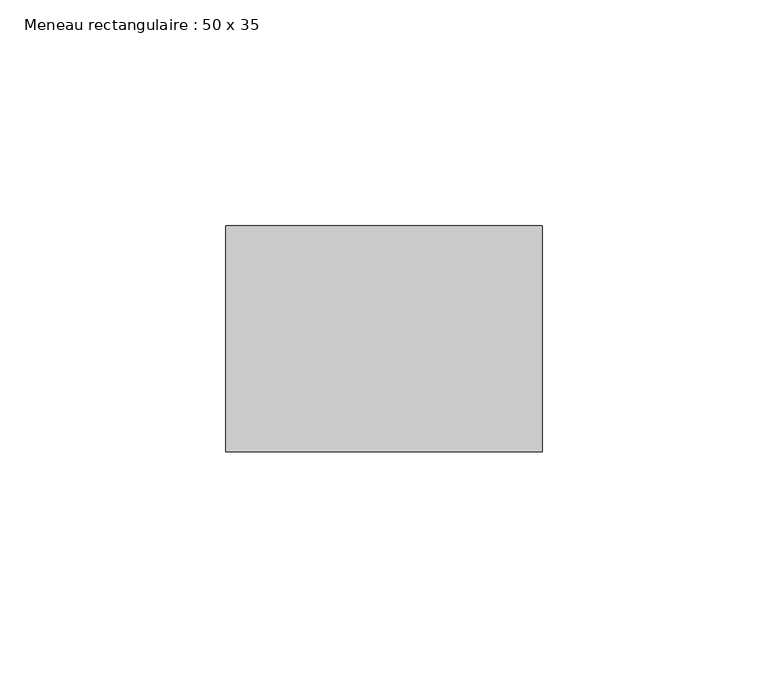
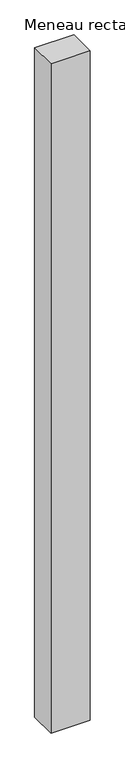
"""IFC4 building model written with IfcOpenShell, lengths in millimetres: member geometry, Meneau rectangulaire : 50 x 35."""

from ifc_helpers import new_model, si_unit, frame, origin, place, context, project, spatial, polyline, outline, extrude, source, transform, mapped, element, save


def meneau_rectangulaire_50_x_35_a22ea3cb(model_context):
    return source(origin(), model_context, "Body", "SweptSolid", [
        extrude(outline(polyline([(0.0, 0.0), (0.0, -50.0), (-70.0, -50.0), (-70.0, 0.0), (0.0, 0.0)])), frame((0.0, 0.0, -1265.0), z_axis=(0.0, 0.0, 1.0), x_axis=(1.0, 0.0, 0.0)), (0.0, 0.0, 1.0), 1265.0),
    ])


if __name__ == "__main__":
    model = new_model("IFC4")
    model_context = context("Model", 3, world=origin())
    ifc_project = project(units=[si_unit("LENGTHUNIT", "METRE", prefix="MILLI")], contexts=[model_context])
    site = spatial("IfcSite", under=ifc_project)
    building = spatial("IfcBuilding", under=site)
    placement = place(None, origin())
    meneau_rectangulaire_50_x_35_shape = meneau_rectangulaire_50_x_35_a22ea3cb(model_context)
    element("IfcMember", 1, ObjectType="Meneau rectangulaire : 50 x 35", at=placement, inside=building, context=model_context, shape_type="MappedRepresentation", body=[
        mapped(meneau_rectangulaire_50_x_35_shape, transform((0.0, 0.0, 0.0), x_axis=(1.0, 0.0, 0.0), y_axis=(0.0, 1.0, 0.0), z_axis=(0.0, 0.0, 1.0))),
    ])
    save(model, "model.ifc")
